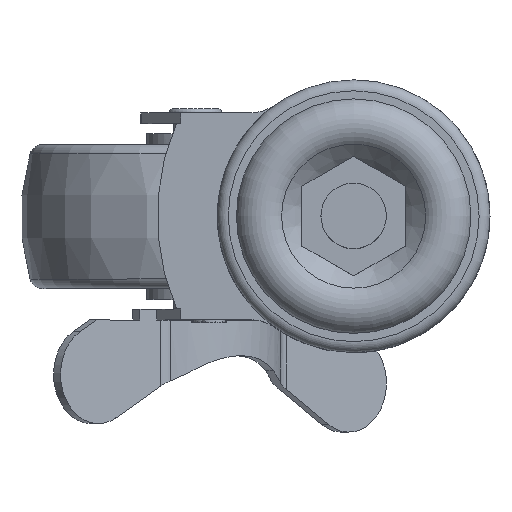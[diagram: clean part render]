
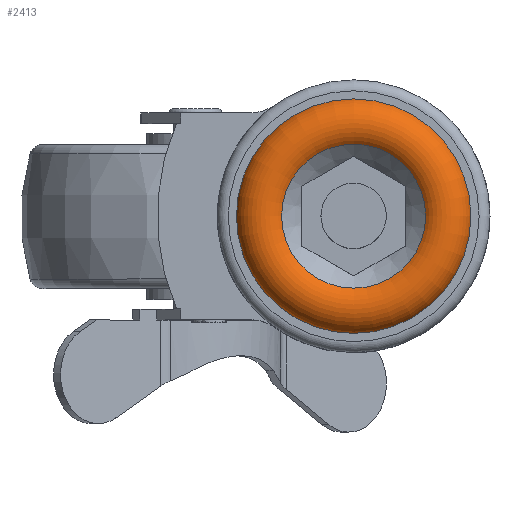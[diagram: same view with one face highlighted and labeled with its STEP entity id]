
A CAD part, top view. The second image highlights one B-rep face of the part: STEP entity #2413.
In plain terms, the highlighted toroidal (fillet/blend) face has major radius 16.75 mm and minor radius 5 mm.
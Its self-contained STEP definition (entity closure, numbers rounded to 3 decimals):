
#1979=TOROIDAL_SURFACE('',#8524,16.75,5.);
#2413=ADVANCED_FACE('',(#2903,#2904),#1979,.T.);
#2903=FACE_BOUND('',#3485,.T.);
#2904=FACE_BOUND('',#3486,.T.);
#3485=EDGE_LOOP('',(#5693));
#3486=EDGE_LOOP('',(#5694));
#5693=ORIENTED_EDGE('',*,*,#7571,.F.);
#5694=ORIENTED_EDGE('',*,*,#7572,.T.);
#6467=VERTEX_POINT('',#17380);
#6468=VERTEX_POINT('',#17382);
#7571=EDGE_CURVE('',#6467,#6467,#7817,.T.);
#7572=EDGE_CURVE('',#6468,#6468,#7818,.T.);
#7817=CIRCLE('',#8522,13.207);
#7818=CIRCLE('',#8523,21.5);
#8522=AXIS2_PLACEMENT_3D('',#17379,#10499,#10500);
#8523=AXIS2_PLACEMENT_3D('',#17381,#10501,#10502);
#8524=AXIS2_PLACEMENT_3D('',#17383,#10503,#10504);
#10499=DIRECTION('',(0.,0.,1.));
#10500=DIRECTION('',(0.,-1.,0.));
#10501=DIRECTION('',(0.,0.,1.));
#10502=DIRECTION('',(0.,-1.,0.));
#10503=DIRECTION('',(0.,0.,1.));
#10504=DIRECTION('',(0.,-1.,0.));
#17379=CARTESIAN_POINT('',(0.,0.,-31.272));
#17380=CARTESIAN_POINT('',(0.,-13.207,-31.272));
#17381=CARTESIAN_POINT('',(0.,0.,-33.239));
#17382=CARTESIAN_POINT('',(0.,-21.5,-33.239));
#17383=CARTESIAN_POINT('',(0.,0.,-34.8));
